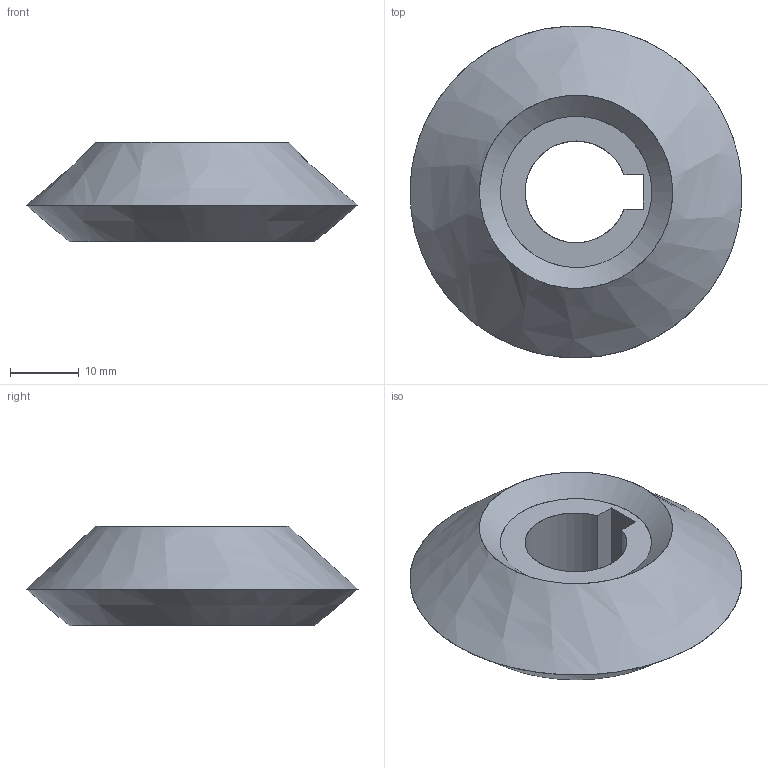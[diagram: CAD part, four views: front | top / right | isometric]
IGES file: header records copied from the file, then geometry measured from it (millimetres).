
Start section: Iges File created by ES
Global section: native system: ES; preprocessor: IGES.4B00; organization: JingDiao; units: millimetre
Bounding box: 48.3 x 48.3 x 14.46 mm (x, y, z)
Surface area: 4938.3 mm2 (no closed solid volume)
Topology: 0 solids, 0 shells, 17 faces, 164 edges, 160 vertices
Faces by surface type: bspline 17
